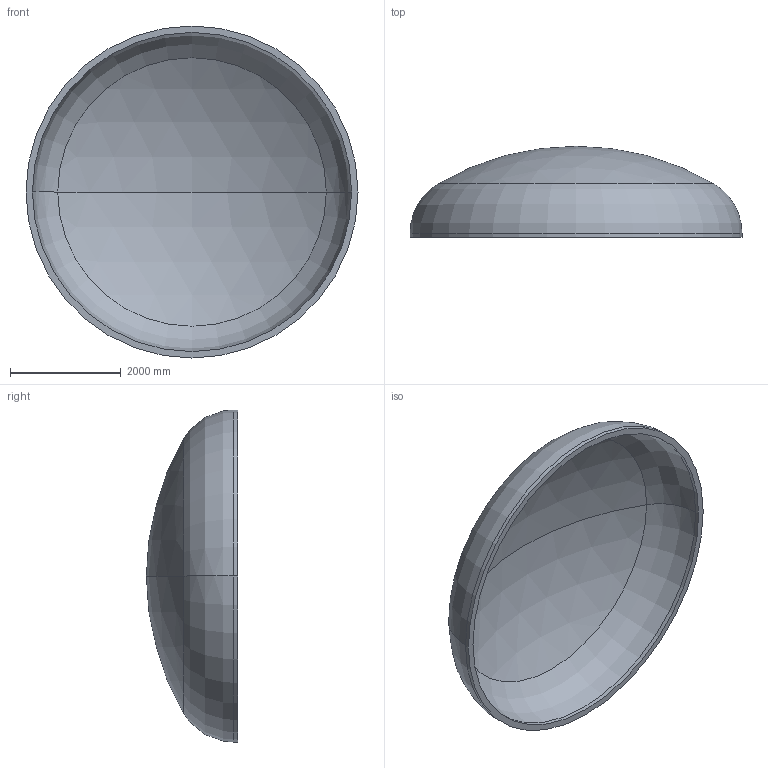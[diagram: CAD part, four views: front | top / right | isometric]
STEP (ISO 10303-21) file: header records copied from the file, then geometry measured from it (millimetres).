
FILE_DESCRIPTION (( 'STEP AP203' ), '1' );
FILE_NAME ('DIN 28013 Korbbogenform_-_Boden DIN 28013 - 6000 x 75 - I - s=116.step', '2016-07-04T10:39:20', ( '' ), ( '' ), 'SwSTEP 2.0', 'SolidWorks 2013', '' );
FILE_SCHEMA (( 'CONFIG_CONTROL_DESIGN' ));
Length unit declared in the file: millimetre
Products named in the file (1): DIN 28013 Korbbogenform_-_Boden DIN 28013 - 6000 x 75 - I - s=116
Bounding box: 6000 x 1647.66 x 6000 mm (x, y, z)
Volume: 4590067701.5 mm3; surface area: 81311526.3 mm2
Topology: 1 solids, 1 shells, 13 faces, 24 edges, 14 vertices
Faces by surface type: torus 4, cylinder 4, sphere 4, plane 1
Entity records: 407 total; most frequent: DIRECTION 72, CARTESIAN_POINT 52, ORIENTED_EDGE 48, AXIS2_PLACEMENT_3D 34, EDGE_CURVE 24, CIRCLE 20, VERTEX_POINT 14, EDGE_LOOP 14
